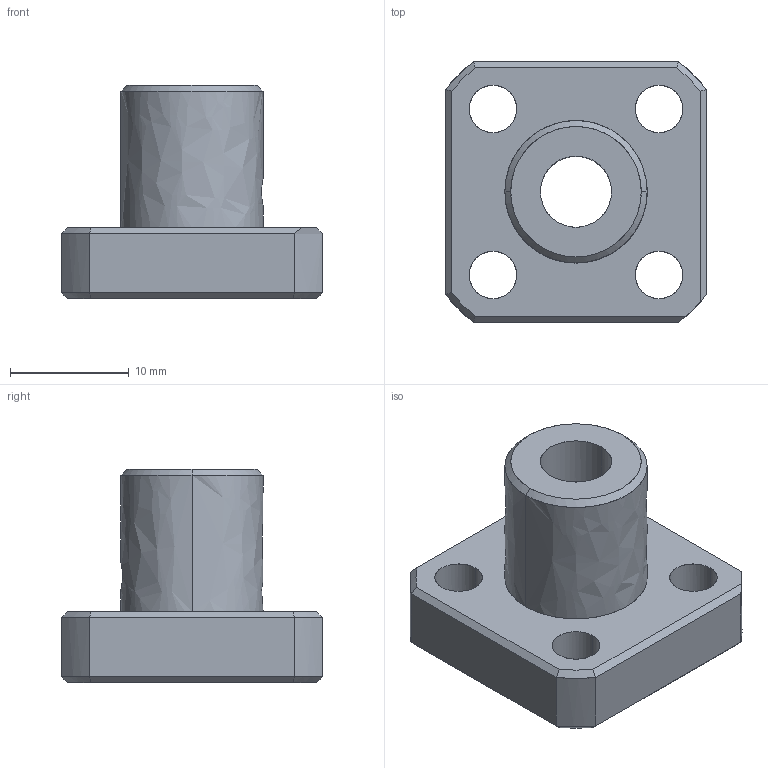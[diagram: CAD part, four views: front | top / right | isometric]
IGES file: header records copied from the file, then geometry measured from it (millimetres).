
Global section: file name: No Iges File Name specified; native system: AutoDesk Inventor R10; preprocessor: AutoDesk Inventor Iges Exporter R10; author: No Author specified; organization: No Organization specified; date: 20101214.154627; units: millimetre
Bounding box: 22 x 22 x 18 mm (x, y, z)
Surface area: 2333.7 mm2 (no closed solid volume)
Topology: 0 solids, 0 shells, 62 faces, 432 edges, 432 vertices
Faces by surface type: bspline 62
